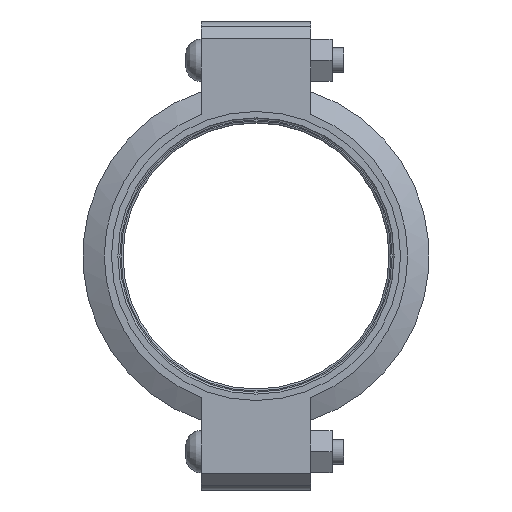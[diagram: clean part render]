
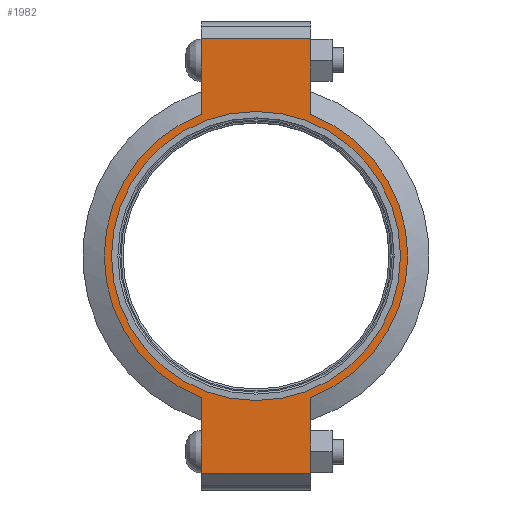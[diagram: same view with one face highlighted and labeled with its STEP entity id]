
A CAD part, left-side view. The second image highlights one B-rep face of the part: STEP entity #1982.
In plain terms, the highlighted planar face has unit normal (-1, 0, 0) as drawn and (0, 0, 1) by its records, which use the part's own axes.
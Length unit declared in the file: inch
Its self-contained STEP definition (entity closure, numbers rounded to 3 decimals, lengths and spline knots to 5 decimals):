
#144=LINE('',#3516,#241);
#152=LINE('',#3552,#249);
#159=LINE('',#3573,#256);
#168=LINE('',#3605,#265);
#169=LINE('',#3609,#266);
#170=LINE('',#3611,#267);
#241=VECTOR('',#2867,0.3937);
#249=VECTOR('',#2883,0.3937);
#256=VECTOR('',#2902,0.3937);
#265=VECTOR('',#2927,0.3937);
#266=VECTOR('',#2932,0.3937);
#267=VECTOR('',#2933,0.3937);
#324=FACE_BOUND('',#578,.T.);
#369=PLANE('',#2326);
#458=FACE_OUTER_BOUND('',#577,.T.);
#577=EDGE_LOOP('',(#1701,#1702,#1703,#1704,#1705,#1706,#1707,#1708));
#578=EDGE_LOOP('',(#1709));
#754=CIRCLE('',#2327,4.53);
#755=CIRCLE('',#2328,4.53);
#756=CIRCLE('',#2329,4.3125);
#922=VERTEX_POINT('',#3513);
#923=VERTEX_POINT('',#3515);
#934=VERTEX_POINT('',#3547);
#935=VERTEX_POINT('',#3551);
#942=VERTEX_POINT('',#3570);
#943=VERTEX_POINT('',#3572);
#953=VERTEX_POINT('',#3608);
#954=VERTEX_POINT('',#3610);
#955=VERTEX_POINT('',#3613);
#1171=EDGE_CURVE('',#923,#922,#144,.T.);
#1185=EDGE_CURVE('',#935,#934,#152,.T.);
#1195=EDGE_CURVE('',#943,#942,#159,.T.);
#1210=EDGE_CURVE('',#935,#922,#168,.T.);
#1211=EDGE_CURVE('',#934,#943,#754,.T.);
#1212=EDGE_CURVE('',#953,#942,#169,.T.);
#1213=EDGE_CURVE('',#953,#954,#170,.T.);
#1214=EDGE_CURVE('',#954,#923,#755,.T.);
#1215=EDGE_CURVE('',#955,#955,#756,.T.);
#1701=ORIENTED_EDGE('',*,*,#1210,.F.);
#1702=ORIENTED_EDGE('',*,*,#1185,.T.);
#1703=ORIENTED_EDGE('',*,*,#1211,.T.);
#1704=ORIENTED_EDGE('',*,*,#1195,.T.);
#1705=ORIENTED_EDGE('',*,*,#1212,.F.);
#1706=ORIENTED_EDGE('',*,*,#1213,.T.);
#1707=ORIENTED_EDGE('',*,*,#1214,.T.);
#1708=ORIENTED_EDGE('',*,*,#1171,.T.);
#1709=ORIENTED_EDGE('',*,*,#1215,.T.);
#1982=ADVANCED_FACE('',(#458,#324),#369,.T.);
#2326=AXIS2_PLACEMENT_3D('',#3606,#2928,#2929);
#2327=AXIS2_PLACEMENT_3D('',#3607,#2930,#2931);
#2328=AXIS2_PLACEMENT_3D('',#3612,#2934,#2935);
#2329=AXIS2_PLACEMENT_3D('',#3614,#2936,#2937);
#2867=DIRECTION('',(1.,0.,0.));
#2883=DIRECTION('',(-1.,0.,0.));
#2902=DIRECTION('',(-1.,0.,0.));
#2927=DIRECTION('',(0.,-1.,0.));
#2928=DIRECTION('center_axis',(0.,0.,1.));
#2929=DIRECTION('ref_axis',(-1.,0.,0.));
#2930=DIRECTION('center_axis',(0.,0.,1.));
#2931=DIRECTION('ref_axis',(1.,0.,0.));
#2932=DIRECTION('',(0.,1.,0.));
#2933=DIRECTION('',(1.,0.,0.));
#2934=DIRECTION('center_axis',(0.,0.,1.));
#2935=DIRECTION('ref_axis',(1.,0.,0.));
#2936=DIRECTION('center_axis',(0.,0.,-1.));
#2937=DIRECTION('ref_axis',(1.,0.,0.));
#3513=CARTESIAN_POINT('',(6.485,-1.63,1.16));
#3515=CARTESIAN_POINT('',(4.22658,-1.63,1.16));
#3516=CARTESIAN_POINT('',(6.985,-1.63,1.16));
#3547=CARTESIAN_POINT('',(4.22658,1.63,1.16));
#3551=CARTESIAN_POINT('',(6.485,1.63,1.16));
#3552=CARTESIAN_POINT('',(-6.985,1.63,1.16));
#3570=CARTESIAN_POINT('',(-6.485,1.63,1.16));
#3572=CARTESIAN_POINT('',(-4.22658,1.63,1.16));
#3573=CARTESIAN_POINT('',(-6.985,1.63,1.16));
#3605=CARTESIAN_POINT('',(6.485,-0.815,1.16));
#3606=CARTESIAN_POINT('Origin',(0.,0.,
1.16));
#3607=CARTESIAN_POINT('Origin',(0.,0.,1.16));
#3608=CARTESIAN_POINT('',(-6.485,-1.63,1.16));
#3609=CARTESIAN_POINT('',(-6.485,0.815,1.16));
#3610=CARTESIAN_POINT('',(-4.22658,-1.63,1.16));
#3611=CARTESIAN_POINT('',(6.985,-1.63,1.16));
#3612=CARTESIAN_POINT('Origin',(0.,0.,1.16));
#3613=CARTESIAN_POINT('',(-4.3125,0.,1.16));
#3614=CARTESIAN_POINT('Origin',(0.,0.,1.16));
